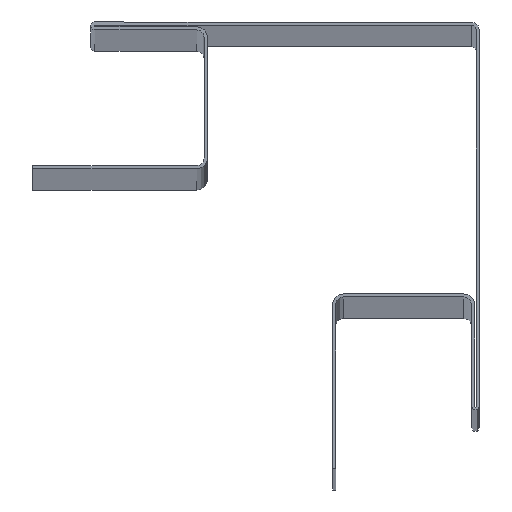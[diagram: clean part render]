
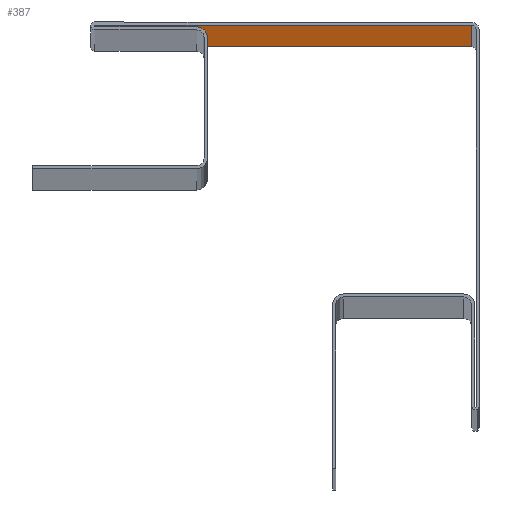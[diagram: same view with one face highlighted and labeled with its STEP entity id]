
A CAD part, top view. The second image highlights one B-rep face of the part: STEP entity #387.
In plain terms, the highlighted planar face has unit normal (0, -1, 0).
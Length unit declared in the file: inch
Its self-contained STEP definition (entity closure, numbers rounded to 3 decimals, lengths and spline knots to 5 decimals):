
#12 = VERTEX_POINT ( 'NONE', #316 ) ;
#23 = LINE ( 'NONE', #1338, #447 ) ;
#187 = DIRECTION ( 'NONE',  ( 0., 0., -1. ) ) ;
#200 = VECTOR ( 'NONE', #187, 39.37008 ) ;
#234 = VECTOR ( 'NONE', #317, 39.37008 ) ;
#249 = DIRECTION ( 'NONE',  ( 1., 0., 0. ) ) ;
#258 = EDGE_CURVE ( 'NONE', #1311, #864, #436, .T. ) ;
#316 = CARTESIAN_POINT ( 'NONE',  ( -0.05, -0.02, 0. ) ) ;
#317 = DIRECTION ( 'NONE',  ( -1., 0., 0. ) ) ;
#385 = DIRECTION ( 'NONE',  ( 0., 0., -1. ) ) ;
#387 = ADVANCED_FACE ( 'NONE', ( #442 ), #973, .T. ) ;
#398 = CARTESIAN_POINT ( 'NONE',  ( -0.05, -0.02, 78.74016 ) ) ;
#420 = DIRECTION ( 'NONE',  ( -1., 0., 0. ) ) ;
#436 = LINE ( 'NONE', #955, #553 ) ;
#442 = FACE_OUTER_BOUND ( 'NONE', #1227, .T. ) ;
#447 = VECTOR ( 'NONE', #420, 39.37008 ) ;
#457 = ORIENTED_EDGE ( 'NONE', *, *, #925, .T. ) ;
#459 = ORIENTED_EDGE ( 'NONE', *, *, #975, .F. ) ;
#497 = CARTESIAN_POINT ( 'NONE',  ( -2.475, -0.02, 0. ) ) ;
#553 = VECTOR ( 'NONE', #385, 39.37008 ) ;
#560 = CARTESIAN_POINT ( 'NONE',  ( -2.475, -0.02, 78.74016 ) ) ;
#587 = CARTESIAN_POINT ( 'NONE',  ( -0.05, -0.02, 78.74016 ) ) ;
#622 = ORIENTED_EDGE ( 'NONE', *, *, #1047, .F. ) ;
#752 = CARTESIAN_POINT ( 'NONE',  ( -2.475, -0.02, 78.74016 ) ) ;
#864 = VERTEX_POINT ( 'NONE', #497 ) ;
#916 = LINE ( 'NONE', #997, #234 ) ;
#925 = EDGE_CURVE ( 'NONE', #1143, #1311, #916, .T. ) ;
#955 = CARTESIAN_POINT ( 'NONE',  ( -2.475, -0.02, 78.74016 ) ) ;
#962 = DIRECTION ( 'NONE',  ( 0., -1., 0. ) ) ;
#973 = PLANE ( 'NONE',  #1214 ) ;
#975 = EDGE_CURVE ( 'NONE', #1143, #12, #1080, .T. ) ;
#997 = CARTESIAN_POINT ( 'NONE',  ( -2.475, -0.02, 78.74016 ) ) ;
#1047 = EDGE_CURVE ( 'NONE', #12, #864, #23, .T. ) ;
#1080 = LINE ( 'NONE', #398, #200 ) ;
#1104 = ORIENTED_EDGE ( 'NONE', *, *, #258, .T. ) ;
#1143 = VERTEX_POINT ( 'NONE', #587 ) ;
#1214 = AXIS2_PLACEMENT_3D ( 'NONE', #752, #962, #249 ) ;
#1227 = EDGE_LOOP ( 'NONE', ( #622, #459, #457, #1104 ) ) ;
#1311 = VERTEX_POINT ( 'NONE', #560 ) ;
#1338 = CARTESIAN_POINT ( 'NONE',  ( -2.475, -0.02, 0. ) ) ;
